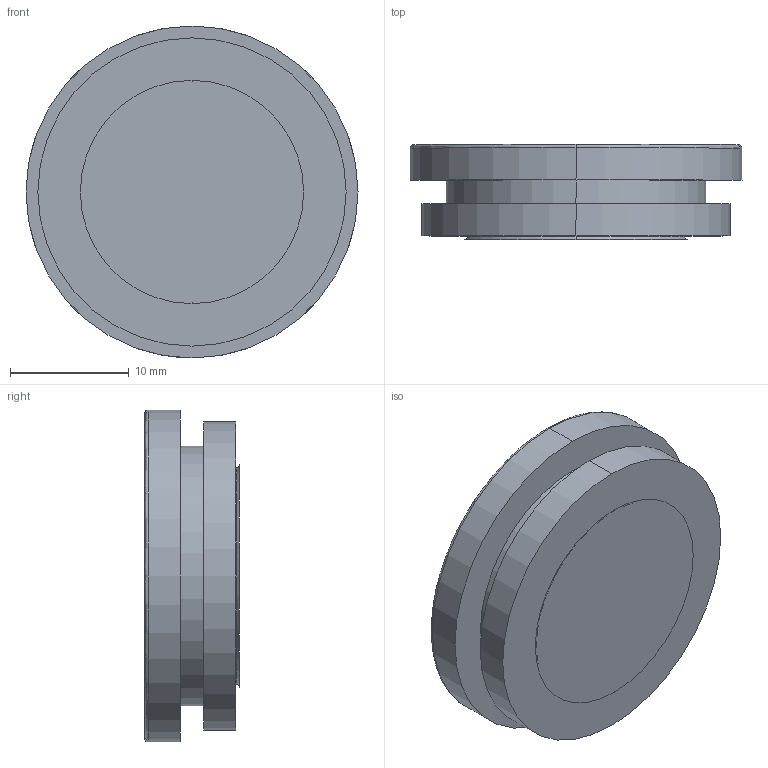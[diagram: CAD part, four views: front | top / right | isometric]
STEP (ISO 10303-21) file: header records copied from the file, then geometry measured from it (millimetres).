
FILE_DESCRIPTION(('CAx-IF Rec.Pracs.---Model Styling and Organization---1.2---2011-12-15','CAx-IF Rec.Pracs.---Geometric and Assembly Validation Properties---4.1---2014-06-16','CAx-IF Rec.Pracs.---PMI Polyline Presentation---2.0---2013-05-24'),'2;1');
FILE_NAME('R5HTT16.stp','2021-05-05T15:04:23+03:00',(''),(''),'STEP Interface 4.4 by CT CoreTechnologie','3D_Evolution4.4 by CT CoreTechnologie','');
FILE_SCHEMA(('AUTOMOTIVE_DESIGN { 1 0 10303 214 1 1 1 1 }'));
Length unit declared in the file: millimetre
Products named in the file (1): R5HTT16
Bounding box: 28 x 8 x 28 mm (x, y, z)
Surface area: 2858.8 mm2 (no closed solid volume)
Topology: 0 solids, 2 shells, 21 faces, 38 edges, 24 vertices
Faces by surface type: bspline 8, plane 7, cylinder 6
Entity records: 734 total; most frequent: CARTESIAN_POINT 286, DIRECTION 96, ORIENTED_EDGE 76, AXIS2_PLACEMENT_3D 44, EDGE_CURVE 38, CIRCLE 30, VERTEX_POINT 24, EDGE_LOOP 24
